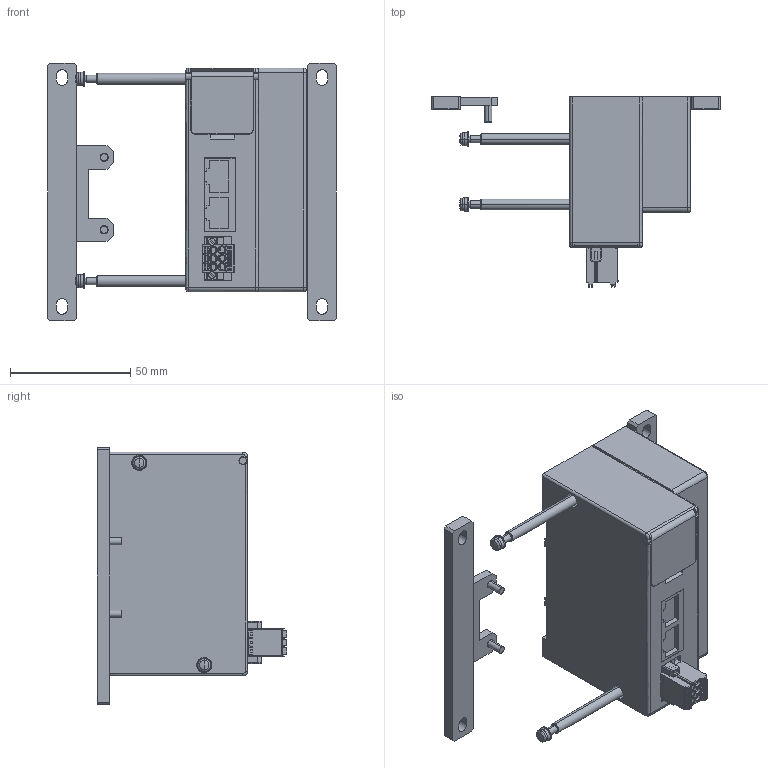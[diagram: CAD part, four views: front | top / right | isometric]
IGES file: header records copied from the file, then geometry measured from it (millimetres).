
Start section: ------------------------------------------------------------------------
Bounding box: 120 x 78.8 x 107 mm (x, y, z)
Volume: 269975.3 mm3; surface area: 42467.1 mm2
Topology: 3 solids, 3 shells, 825 faces, 2127 edges, 1359 vertices
Faces by surface type: bspline 825
